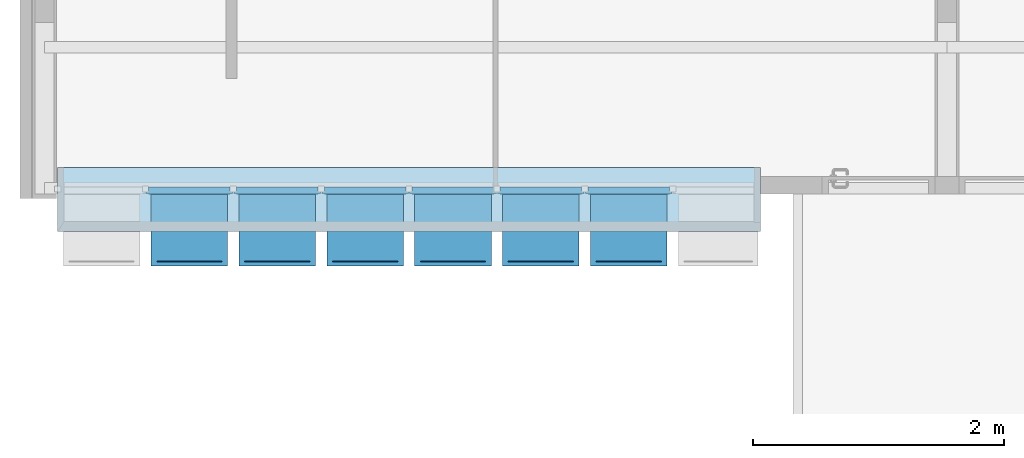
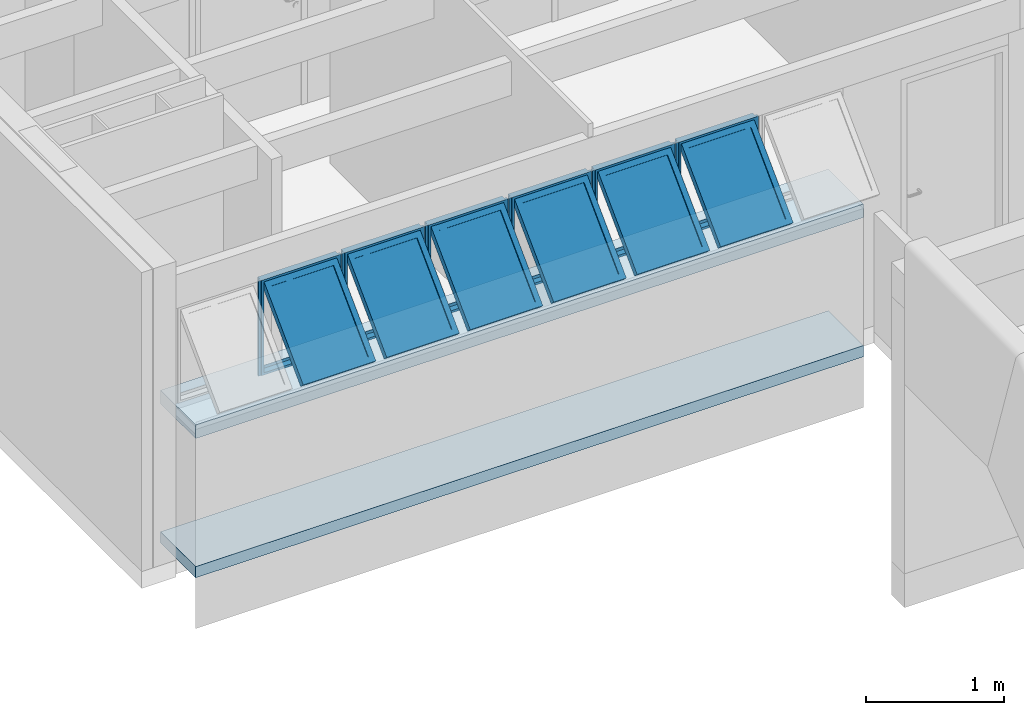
# One storey, part 11 of 40: 6 plates, 2 slabs, 1 element without a shape of its own.
"""IFC4 building model written with IfcOpenShell, lengths in millimetres."""

from ifc_helpers import new_model, entity, si_unit, converted_unit, derived_unit, direction, frame, origin_with_axes, place, context, subcontext, project, spatial, line, indexed_curve, outline, extrude, polygons, source, transform, mapped, material, layer, layer_set, layer_usage, constituent, constituent_set, type_object, element, aggregate, save


model = new_model("IFC4")

# Units and contexts
model_context = context("Model", 3, precision=0.01, world=origin_with_axes(), true_north=direction((0.0, 1.0)))
body_context = subcontext(model_context, "Body", "Model", "MODEL_VIEW")
ifc_project = project(units=[si_unit("LENGTHUNIT", "METRE", prefix="MILLI"), si_unit("AREAUNIT", "SQUARE_METRE"), si_unit("VOLUMEUNIT", "CUBIC_METRE"), converted_unit("PLANEANGLEUNIT", "DEGREE", entity("IfcPlaneAngleMeasure", 0.0174532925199), si_unit("PLANEANGLEUNIT", "RADIAN"), dimensions=[0, 0, 0, 0, 0, 0, 0]), converted_unit("TIMEUNIT", "Year", entity("IfcTimeMeasure", 31556926.0), si_unit("TIMEUNIT", "SECOND"), dimensions=[0, 0, 1, 0, 0, 0, 0]), si_unit("MASSUNIT", "GRAM", prefix="KILO"), si_unit("THERMODYNAMICTEMPERATUREUNIT", "DEGREE_CELSIUS"), si_unit("LUMINOUSINTENSITYUNIT", "LUMEN"), si_unit("ENERGYUNIT", "JOULE", prefix="MEGA"), derived_unit("THERMALCONDUCTANCEUNIT", [(si_unit("POWERUNIT", "WATT"), 1), (si_unit("LENGTHUNIT", "METRE"), -1), (si_unit("THERMODYNAMICTEMPERATUREUNIT", "KELVIN"), -1)]), derived_unit("SPECIFICHEATCAPACITYUNIT", [(si_unit("ENERGYUNIT", "JOULE"), 1), (si_unit("MASSUNIT", "GRAM", prefix="KILO"), -1), (si_unit("THERMODYNAMICTEMPERATUREUNIT", "KELVIN"), -1)]), derived_unit("MASSDENSITYUNIT", [(si_unit("MASSUNIT", "GRAM", prefix="KILO"), 1), (si_unit("VOLUMEUNIT", "CUBIC_METRE"), -1)])], contexts=[model_context])

# Site, building, storey
site_placement = place(None, origin_with_axes())
site = spatial("IfcSite", under=ifc_project, at=site_placement, Name="Local", CompositionType="ELEMENT")
building_placement = place(site_placement, origin_with_axes())
building = spatial("IfcBuilding", under=site, at=building_placement, Name="Construção", CompositionType="ELEMENT")
storey_placement = place(building_placement, origin_with_axes())
storey = spatial("IfcBuildingStorey", under=building, at=storey_placement, Name="Primeiro Pavimento", CompositionType="ELEMENT", Elevation=0.0)

# Slab
ifc_material_1 = material(Name="Concreto Armado Moldado in Loco - Estrutural")
ifc_layer_1 = layer(ifc_material_1, 120.0, ventilated="UNKNOWN", Name="Concreto Armado Moldado in Loco - Estrutural")
ifc_layer_set_1 = layer_set([ifc_layer_1], Name="Concreto Armado Moldado in Loco - Estrutural 120")
ifc_layer_usage_1 = layer_usage(ifc_layer_set_1, "AXIS3", "NEGATIVE", 120.0)
slab_type_1 = type_object("IfcSlabType", Name="Concreto Armado Moldado in Loco - Estrutural 120", PredefinedType="FLOOR")
slab_1_placement = place(storey_placement, frame((300.0, 17595.0000013, 1355.0), z_axis=(0.0, 0.0, 1.0), x_axis=(1.0, 0.0, 0.0)))
element("IfcSlab", 1, at=slab_1_placement, inside=storey, type_object=slab_type_1, material=ifc_layer_usage_1, Name="APTO3-LAJE-003", PredefinedType="FLOOR", context=body_context, shape_type="SweptSolid", body=[
    extrude(outline(indexed_curve([(0.0, 0.0), (5600.0, 0.0), (5600.0, 510.0), (0.0, 510.0)], segments=[line(1, 2, 3, 4, 1)])), frame((0.0, 0.0, -120.0), z_axis=(0.0, 0.0, 1.0), x_axis=(1.0, 0.0, 0.0)), (0.0, 0.0, 1.0), 120.0),
])

# Window, plates
window_type = type_object("IfcWindowType", Name="Tipo de Parede Cortina", PartitioningType="NOTDEFINED", PredefinedType="NOTDEFINED")
window_placement = place(storey_placement, frame((2750.0, 17910.0, 1355.00007107), z_axis=(0.0, 0.0, 1.0), x_axis=(1.0, 0.0, 0.0)))
window = element("IfcWindow", 2, at=window_placement, inside=storey, type_object=window_type, Name="APTO3-JANELA-000", PredefinedType="NOTDEFINED")
ifc_material_2 = material(Name="Alumínio")
ifc_constituent_1 = constituent(ifc_material_2, Name="Alumínio")
ifc_material_3 = material(Name="Vidro")
ifc_constituent_2 = constituent(ifc_material_3, Name="Vidro")
ifc_constituent_set_1 = constituent_set(constituents=[ifc_constituent_1, ifc_constituent_2])
plate_type = type_object("IfcPlateType", Name="Painel Principal 690 x 845 x 20", PredefinedType="CURTAIN_PANEL")
shared_shape_1 = source(origin_with_axes(), body_context, "Body", "Tessellation", [
    polygons([(25.0000036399, 0.0, -40.0), (674.999997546, 0.0, -40.0), (674.999997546, 0.0, -35.0), (25.0000036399, 0.0, -35.0), (70.0000036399, 45.0, -40.0), (629.999997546, 45.0, -40.0), (629.999997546, 45.0, -35.0), (70.0000036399, 45.0, -35.0)], [[[1, 2, 3, 4]], [[1, 5, 6, 2]], [[2, 6, 7, 3]], [[4, 3, 7, 8]], [[5, 1, 4, 8]], [[6, 5, 8, 7]]], closed=True),
    polygons([(674.999997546, 0.0, -40.0), (674.999997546, 844.999891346, -40.0), (674.999997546, 844.999891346, -35.0), (674.999997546, 0.0, -35.0), (629.999997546, 45.0, -40.0), (629.999997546, 799.999891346, -40.0), (629.999997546, 799.999891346, -35.0), (629.999997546, 45.0, -35.0)], [[[1, 2, 3, 4]], [[1, 5, 6, 2]], [[2, 6, 7, 3]], [[4, 3, 7, 8]], [[5, 1, 4, 8]], [[6, 5, 8, 7]]], closed=True),
    polygons([(25.0000036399, 844.999891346, -40.0), (70.0000036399, 799.999891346, -40.0), (70.0000036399, 799.999891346, -35.0), (25.0000036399, 844.999891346, -35.0), (674.999997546, 844.999891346, -40.0), (629.999997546, 799.999891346, -40.0), (629.999997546, 799.999891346, -35.0), (674.999997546, 844.999891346, -35.0)], [[[1, 2, 3, 4]], [[1, 5, 6, 2]], [[2, 6, 7, 3]], [[4, 3, 7, 8]], [[5, 1, 4, 8]], [[6, 5, 8, 7]]], closed=True),
    polygons([(25.0000036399, 0.0, -40.0), (70.0000036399, 45.0, -40.0), (70.0000036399, 45.0, -35.0), (25.0000036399, 0.0, -35.0), (25.0000036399, 844.999891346, -40.0), (70.0000036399, 799.999891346, -40.0), (70.0000036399, 799.999891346, -35.0), (25.0000036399, 844.999891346, -35.0)], [[[1, 2, 3, 4]], [[1, 5, 6, 2]], [[2, 6, 7, 3]], [[4, 3, 7, 8]], [[5, 1, 4, 8]], [[6, 5, 8, 7]]], closed=True),
    polygons([(25.0000036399, 0.0, -35.0), (674.999997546, 0.0, -35.0), (674.999997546, 0.0, 15.0), (25.0000036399, 0.0, 15.0), (45.0000036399, 20.0, -35.0), (654.999997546, 20.0, -35.0), (654.999997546, 20.0, 15.0), (45.0000036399, 20.0, 15.0)], [[[1, 2, 3, 4]], [[1, 5, 6, 2]], [[2, 6, 7, 3]], [[4, 3, 7, 8]], [[5, 1, 4, 8]], [[6, 5, 8, 7]]], closed=True),
    polygons([(674.999997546, 0.0, -35.0), (674.999997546, 844.999891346, -35.0), (674.999997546, 844.999891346, 15.0), (674.999997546, 0.0, 15.0), (654.999997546, 20.0, -35.0), (654.999997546, 824.999891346, -35.0), (654.999997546, 824.999891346, 15.0), (654.999997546, 20.0, 15.0)], [[[1, 2, 3, 4]], [[1, 5, 6, 2]], [[2, 6, 7, 3]], [[4, 3, 7, 8]], [[5, 1, 4, 8]], [[6, 5, 8, 7]]], closed=True),
    polygons([(25.0000036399, 844.999891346, -35.0), (45.0000036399, 824.999891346, -35.0), (45.0000036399, 824.999891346, 15.0), (25.0000036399, 844.999891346, 15.0), (674.999997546, 844.999891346, -35.0), (654.999997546, 824.999891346, -35.0), (654.999997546, 824.999891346, 15.0), (674.999997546, 844.999891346, 15.0)], [[[1, 2, 3, 4]], [[1, 5, 6, 2]], [[2, 6, 7, 3]], [[4, 3, 7, 8]], [[5, 1, 4, 8]], [[6, 5, 8, 7]]], closed=True),
    polygons([(25.0000036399, 0.0, -35.0), (45.0000036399, 20.0, -35.0), (45.0000036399, 20.0, 15.0), (25.0000036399, 0.0, 15.0), (25.0000036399, 844.999891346, -35.0), (45.0000036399, 824.999891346, -35.0), (45.0000036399, 824.999891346, 15.0), (25.0000036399, 844.999891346, 15.0)], [[[1, 2, 3, 4]], [[1, 5, 6, 2]], [[2, 6, 7, 3]], [[4, 3, 7, 8]], [[5, 1, 4, 8]], [[6, 5, 8, 7]]], closed=True),
    polygons([(694.999995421, 0.0, -10.0), (694.999995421, 844.999891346, -10.0), (694.999995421, 844.999891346, 10.0), (694.999995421, 0.0, 10.0), (674.999997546, 0.0, -10.0), (674.999997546, 844.999891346, -10.0), (674.999997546, 844.999891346, 10.0), (674.999997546, 0.0, 10.0)], [[[1, 2, 3, 4]], [[1, 5, 6, 2]], [[2, 6, 7, 3]], [[4, 3, 7, 8]], [[5, 1, 4, 8]], [[6, 5, 8, 7]]], closed=True),
    polygons([(5.00000576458, 844.999891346, -10.0), (5.00000576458, 0.0, -10.0), (5.00000576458, 0.0, 10.0), (5.00000576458, 844.999891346, 10.0), (25.0000036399, 844.999891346, -10.0), (25.0000036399, 0.0, -10.0), (25.0000036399, 0.0, 10.0), (25.0000036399, 844.999891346, 10.0)], [[[1, 2, 3, 4]], [[1, 5, 6, 2]], [[2, 6, 7, 3]], [[4, 3, 7, 8]], [[5, 1, 4, 8]], [[6, 5, 8, 7]]], closed=True),
    polygons([(90.0000036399, 252.243475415, 517.045737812), (90.0000036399, 757.824747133, 11.4644660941), (90.0000036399, 796.715620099, 50.3553390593), (90.0000036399, 291.13434838, 555.936610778), (45.0000036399, 220.423670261, 548.865542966), (45.0000036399, 789.644552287, -20.3553390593), (45.0000036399, 828.535425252, 18.5355339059), (45.0000036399, 259.314543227, 587.756415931)], [[[1, 2, 3, 4]], [[1, 5, 6, 2]], [[2, 6, 7, 3]], [[4, 3, 7, 8]], [[5, 1, 4, 8]], [[6, 5, 8, 7]]], closed=True),
    polygons([(654.999997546, 220.423670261, 548.865542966), (654.999997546, 789.644552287, -20.3553390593), (654.999997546, 828.535425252, 18.5355339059), (654.999997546, 259.314543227, 587.756415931), (609.999997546, 252.243475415, 517.045737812), (609.999997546, 757.824747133, 11.4644660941), (609.999997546, 796.715620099, 50.3553390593), (609.999997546, 291.13434838, 555.936610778)], [[[1, 2, 3, 4]], [[1, 5, 6, 2]], [[2, 6, 7, 3]], [[4, 3, 7, 8]], [[5, 1, 4, 8]], [[6, 5, 8, 7]]], closed=True),
    polygons([(654.999997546, 220.423670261, 548.865542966), (609.999997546, 252.243475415, 517.045737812), (609.999997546, 291.13434838, 555.936610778), (654.999997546, 259.314543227, 587.756415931), (45.0000036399, 220.423670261, 548.865542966), (90.0000036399, 252.243475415, 517.045737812), (90.0000036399, 291.13434838, 555.936610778), (45.0000036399, 259.314543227, 587.756415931)], [[[1, 2, 3, 4]], [[1, 5, 6, 2]], [[2, 6, 7, 3]], [[4, 3, 7, 8]], [[5, 1, 4, 8]], [[6, 5, 8, 7]]], closed=True),
    polygons([(45.0000036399, 789.644552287, -20.3553390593), (90.0000036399, 757.824747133, 11.4644660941), (90.0000036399, 796.715620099, 50.3553390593), (45.0000036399, 828.535425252, 18.5355339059), (654.999997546, 789.644552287, -20.3553390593), (609.999997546, 757.824747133, 11.4644660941), (609.999997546, 796.715620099, 50.3553390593), (654.999997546, 828.535425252, 18.5355339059)], [[[1, 2, 3, 4]], [[1, 5, 6, 2]], [[2, 6, 7, 3]], [[4, 3, 7, 8]], [[5, 1, 4, 8]], [[6, 5, 8, 7]]], closed=True),
    polygons([(90.0000036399, 272.749572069, 537.551834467), (609.999997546, 272.749572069, 537.551834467), (609.999997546, 284.063280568, 548.865542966), (90.0000036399, 284.063280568, 548.865542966), (90.0000036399, 778.330843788, 31.9705627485), (609.999997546, 778.330843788, 31.9705627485), (609.999997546, 789.644552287, 43.2842712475), (90.0000036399, 789.644552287, 43.2842712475)], [[[1, 2, 3, 4]], [[1, 5, 6, 2]], [[2, 6, 7, 3]], [[4, 3, 7, 8]], [[5, 1, 4, 8]], [[6, 5, 8, 7]]], closed=True),
])
plate_1_placement = place(window_placement, frame((0.0, 0.0, 422.499964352), z_axis=(0.0, 0.0, 1.0), x_axis=(-1.0, 0.0, 0.0)))
plate_1 = element("IfcPlate", 3, at=plate_1_placement, type_object=plate_type, material=ifc_constituent_set_1, Name="APTO3-Painel-Prin-013", PredefinedType="CURTAIN_PANEL", context=body_context, shape_type="MappedRepresentation", body=[
    mapped(shared_shape_1, transform((350.0, 0.0, -422.499964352), x_axis=(-1.0, 0.0, 0.0), y_axis=(0.0, 0.0, 1.0), z_axis=(0.0, 1.0, 0.0))),
])
ifc_constituent_3 = constituent(ifc_material_2, Name="Alumínio")
ifc_constituent_4 = constituent(ifc_material_3, Name="Vidro")
ifc_constituent_set_2 = constituent_set(constituents=[ifc_constituent_3, ifc_constituent_4])
plate_2_placement = place(window_placement, frame((2100.0, 0.0, 422.499964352), z_axis=(0.0, 0.0, 1.0), x_axis=(-1.0, 0.0, 0.0)))
plate_2 = element("IfcPlate", 4, at=plate_2_placement, type_object=plate_type, material=ifc_constituent_set_2, Name="APTO3-Painel-Prin-029", PredefinedType="CURTAIN_PANEL", context=body_context, shape_type="MappedRepresentation", body=[
    mapped(shared_shape_1, transform((350.0, 0.0, -422.499964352), x_axis=(-1.0, 0.0, 0.0), y_axis=(0.0, 0.0, 1.0), z_axis=(0.0, 1.0, 0.0))),
])
ifc_constituent_5 = constituent(ifc_material_2, Name="Alumínio")
ifc_constituent_6 = constituent(ifc_material_3, Name="Vidro")
ifc_constituent_set_3 = constituent_set(constituents=[ifc_constituent_5, ifc_constituent_6])
shared_shape_2 = source(origin_with_axes(), body_context, "Body", "Tessellation", [
    polygons([(25.0000036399, 0.0, -40.0), (674.999997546, 0.0, -40.0), (674.999997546, 0.0, -35.0), (25.0000036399, 0.0, -35.0), (70.0000036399, 45.0, -40.0), (629.999997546, 45.0, -40.0), (629.999997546, 45.0, -35.0), (70.0000036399, 45.0, -35.0)], [[[1, 2, 3, 4]], [[1, 5, 6, 2]], [[2, 6, 7, 3]], [[4, 3, 7, 8]], [[5, 1, 4, 8]], [[6, 5, 8, 7]]], closed=True),
    polygons([(674.999997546, 0.0, -40.0), (674.999997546, 844.999891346, -40.0), (674.999997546, 844.999891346, -35.0), (674.999997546, 0.0, -35.0), (629.999997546, 45.0, -40.0), (629.999997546, 799.999891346, -40.0), (629.999997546, 799.999891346, -35.0), (629.999997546, 45.0, -35.0)], [[[1, 2, 3, 4]], [[1, 5, 6, 2]], [[2, 6, 7, 3]], [[4, 3, 7, 8]], [[5, 1, 4, 8]], [[6, 5, 8, 7]]], closed=True),
    polygons([(25.0000036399, 844.999891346, -40.0), (70.0000036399, 799.999891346, -40.0), (70.0000036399, 799.999891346, -35.0), (25.0000036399, 844.999891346, -35.0), (674.999997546, 844.999891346, -40.0), (629.999997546, 799.999891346, -40.0), (629.999997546, 799.999891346, -35.0), (674.999997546, 844.999891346, -35.0)], [[[1, 2, 3, 4]], [[1, 5, 6, 2]], [[2, 6, 7, 3]], [[4, 3, 7, 8]], [[5, 1, 4, 8]], [[6, 5, 8, 7]]], closed=True),
    polygons([(25.0000036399, 0.0, -40.0), (70.0000036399, 45.0, -40.0), (70.0000036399, 45.0, -35.0), (25.0000036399, 0.0, -35.0), (25.0000036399, 844.999891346, -40.0), (70.0000036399, 799.999891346, -40.0), (70.0000036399, 799.999891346, -35.0), (25.0000036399, 844.999891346, -35.0)], [[[1, 2, 3, 4]], [[1, 5, 6, 2]], [[2, 6, 7, 3]], [[4, 3, 7, 8]], [[5, 1, 4, 8]], [[6, 5, 8, 7]]], closed=True),
    polygons([(25.0000036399, 0.0, -35.0), (674.999997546, 0.0, -35.0), (674.999997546, 0.0, 15.0), (25.0000036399, 0.0, 15.0), (45.0000036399, 20.0, -35.0), (654.999997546, 20.0, -35.0), (654.999997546, 20.0, 15.0), (45.0000036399, 20.0, 15.0)], [[[1, 2, 3, 4]], [[1, 5, 6, 2]], [[2, 6, 7, 3]], [[4, 3, 7, 8]], [[5, 1, 4, 8]], [[6, 5, 8, 7]]], closed=True),
    polygons([(674.999997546, 0.0, -35.0), (674.999997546, 844.999891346, -35.0), (674.999997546, 844.999891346, 15.0), (674.999997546, 0.0, 15.0), (654.999997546, 20.0, -35.0), (654.999997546, 824.999891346, -35.0), (654.999997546, 824.999891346, 15.0), (654.999997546, 20.0, 15.0)], [[[1, 2, 3, 4]], [[1, 5, 6, 2]], [[2, 6, 7, 3]], [[4, 3, 7, 8]], [[5, 1, 4, 8]], [[6, 5, 8, 7]]], closed=True),
    polygons([(25.0000036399, 844.999891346, -35.0), (45.0000036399, 824.999891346, -35.0), (45.0000036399, 824.999891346, 15.0), (25.0000036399, 844.999891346, 15.0), (674.999997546, 844.999891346, -35.0), (654.999997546, 824.999891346, -35.0), (654.999997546, 824.999891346, 15.0), (674.999997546, 844.999891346, 15.0)], [[[1, 2, 3, 4]], [[1, 5, 6, 2]], [[2, 6, 7, 3]], [[4, 3, 7, 8]], [[5, 1, 4, 8]], [[6, 5, 8, 7]]], closed=True),
    polygons([(25.0000036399, 0.0, -35.0), (45.0000036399, 20.0, -35.0), (45.0000036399, 20.0, 15.0), (25.0000036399, 0.0, 15.0), (25.0000036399, 844.999891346, -35.0), (45.0000036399, 824.999891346, -35.0), (45.0000036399, 824.999891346, 15.0), (25.0000036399, 844.999891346, 15.0)], [[[1, 2, 3, 4]], [[1, 5, 6, 2]], [[2, 6, 7, 3]], [[4, 3, 7, 8]], [[5, 1, 4, 8]], [[6, 5, 8, 7]]], closed=True),
    polygons([(694.999995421, 0.0, -10.0), (694.999995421, 844.999891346, -10.0), (694.999995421, 844.999891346, 10.0), (694.999995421, 0.0, 10.0), (674.999997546, 0.0, -10.0), (674.999997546, 844.999891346, -10.0), (674.999997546, 844.999891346, 10.0), (674.999997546, 0.0, 10.0)], [[[1, 2, 3, 4]], [[1, 5, 6, 2]], [[2, 6, 7, 3]], [[4, 3, 7, 8]], [[5, 1, 4, 8]], [[6, 5, 8, 7]]], closed=True),
    polygons([(5.00000576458, 844.999891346, -10.0), (5.00000576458, 0.0, -10.0), (5.00000576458, 0.0, 10.0), (5.00000576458, 844.999891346, 10.0), (25.0000036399, 844.999891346, -10.0), (25.0000036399, 0.0, -10.0), (25.0000036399, 0.0, 10.0), (25.0000036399, 844.999891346, 10.0)], [[[1, 2, 3, 4]], [[1, 5, 6, 2]], [[2, 6, 7, 3]], [[4, 3, 7, 8]], [[5, 1, 4, 8]], [[6, 5, 8, 7]]], closed=True),
    polygons([(90.0000036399, 252.243475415, 517.045737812), (90.0000036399, 757.824747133, 11.4644660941), (90.0000036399, 796.715620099, 50.3553390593), (90.0000036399, 291.13434838, 555.936610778), (45.0000036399, 220.423670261, 548.865542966), (45.0000036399, 789.644552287, -20.3553390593), (45.0000036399, 828.535425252, 18.5355339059), (45.0000036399, 259.314543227, 587.756415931)], [[[1, 2, 3, 4]], [[1, 5, 6, 2]], [[2, 6, 7, 3]], [[4, 3, 7, 8]], [[5, 1, 4, 8]], [[6, 5, 8, 7]]], closed=True),
    polygons([(654.999997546, 220.423670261, 548.865542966), (654.999997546, 789.644552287, -20.3553390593), (654.999997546, 828.535425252, 18.5355339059), (654.999997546, 259.314543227, 587.756415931), (609.999997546, 252.243475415, 517.045737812), (609.999997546, 757.824747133, 11.4644660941), (609.999997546, 796.715620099, 50.3553390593), (609.999997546, 291.13434838, 555.936610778)], [[[1, 2, 3, 4]], [[1, 5, 6, 2]], [[2, 6, 7, 3]], [[4, 3, 7, 8]], [[5, 1, 4, 8]], [[6, 5, 8, 7]]], closed=True),
    polygons([(654.999997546, 220.423670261, 548.865542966), (609.999997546, 252.243475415, 517.045737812), (609.999997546, 291.13434838, 555.936610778), (654.999997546, 259.314543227, 587.756415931), (45.0000036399, 220.423670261, 548.865542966), (90.0000036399, 252.243475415, 517.045737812), (90.0000036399, 291.13434838, 555.936610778), (45.0000036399, 259.314543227, 587.756415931)], [[[1, 2, 3, 4]], [[1, 5, 6, 2]], [[2, 6, 7, 3]], [[4, 3, 7, 8]], [[5, 1, 4, 8]], [[6, 5, 8, 7]]], closed=True),
    polygons([(45.0000036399, 789.644552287, -20.3553390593), (90.0000036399, 757.824747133, 11.4644660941), (90.0000036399, 796.715620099, 50.3553390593), (45.0000036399, 828.535425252, 18.5355339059), (654.999997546, 789.644552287, -20.3553390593), (609.999997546, 757.824747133, 11.4644660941), (609.999997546, 796.715620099, 50.3553390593), (654.999997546, 828.535425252, 18.5355339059)], [[[1, 2, 3, 4]], [[1, 5, 6, 2]], [[2, 6, 7, 3]], [[4, 3, 7, 8]], [[5, 1, 4, 8]], [[6, 5, 8, 7]]], closed=True),
    polygons([(90.0000036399, 272.749572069, 537.551834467), (609.999997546, 272.749572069, 537.551834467), (609.999997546, 284.063280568, 548.865542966), (90.0000036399, 284.063280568, 548.865542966), (90.0000036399, 778.330843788, 31.9705627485), (609.999997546, 778.330843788, 31.9705627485), (609.999997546, 789.644552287, 43.2842712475), (90.0000036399, 789.644552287, 43.2842712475)], [[[1, 2, 3, 4]], [[1, 5, 6, 2]], [[2, 6, 7, 3]], [[4, 3, 7, 8]], [[5, 1, 4, 8]], [[6, 5, 8, 7]]], closed=True),
])
plate_3_placement = place(window_placement, frame((-1400.0, 0.0, 422.499964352), z_axis=(0.0, 0.0, 1.0), x_axis=(-1.0, 0.0, 0.0)))
plate_3 = element("IfcPlate", 5, at=plate_3_placement, type_object=plate_type, material=ifc_constituent_set_3, Name="APTO3-Painel-Prin-013", PredefinedType="CURTAIN_PANEL", context=body_context, shape_type="MappedRepresentation", body=[
    mapped(shared_shape_2, transform((350.0, 0.0, -422.499964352), x_axis=(-1.0, 0.0, 0.0), y_axis=(0.0, 0.0, 1.0), z_axis=(0.0, 1.0, 0.0))),
])
ifc_constituent_7 = constituent(ifc_material_2, Name="Alumínio")
ifc_constituent_8 = constituent(ifc_material_3, Name="Vidro")
ifc_constituent_set_4 = constituent_set(constituents=[ifc_constituent_7, ifc_constituent_8])
plate_4_placement = place(window_placement, frame((1400.0, 0.0, 422.499964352), z_axis=(0.0, 0.0, 1.0), x_axis=(-1.0, 0.0, 0.0)))
plate_4 = element("IfcPlate", 6, at=plate_4_placement, type_object=plate_type, material=ifc_constituent_set_4, Name="APTO3-Painel-Prin-025", PredefinedType="CURTAIN_PANEL", context=body_context, shape_type="MappedRepresentation", body=[
    mapped(shared_shape_2, transform((350.0, 0.0, -422.499964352), x_axis=(-1.0, 0.0, 0.0), y_axis=(0.0, 0.0, 1.0), z_axis=(0.0, 1.0, 0.0))),
])
ifc_constituent_9 = constituent(ifc_material_2, Name="Alumínio")
ifc_constituent_10 = constituent(ifc_material_3, Name="Vidro")
ifc_constituent_set_5 = constituent_set(constituents=[ifc_constituent_9, ifc_constituent_10])
shared_shape_3 = source(origin_with_axes(), body_context, "Body", "Tessellation", [
    polygons([(25.0000036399, 0.0, -40.0), (674.999997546, 0.0, -40.0), (674.999997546, 0.0, -35.0), (25.0000036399, 0.0, -35.0), (70.0000036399, 45.0, -40.0), (629.999997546, 45.0, -40.0), (629.999997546, 45.0, -35.0), (70.0000036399, 45.0, -35.0)], [[[1, 2, 3, 4]], [[1, 5, 6, 2]], [[2, 6, 7, 3]], [[4, 3, 7, 8]], [[5, 1, 4, 8]], [[6, 5, 8, 7]]], closed=True),
    polygons([(674.999997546, 0.0, -40.0), (674.999997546, 844.999891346, -40.0), (674.999997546, 844.999891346, -35.0), (674.999997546, 0.0, -35.0), (629.999997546, 45.0, -40.0), (629.999997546, 799.999891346, -40.0), (629.999997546, 799.999891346, -35.0), (629.999997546, 45.0, -35.0)], [[[1, 2, 3, 4]], [[1, 5, 6, 2]], [[2, 6, 7, 3]], [[4, 3, 7, 8]], [[5, 1, 4, 8]], [[6, 5, 8, 7]]], closed=True),
    polygons([(25.0000036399, 844.999891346, -40.0), (70.0000036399, 799.999891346, -40.0), (70.0000036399, 799.999891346, -35.0), (25.0000036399, 844.999891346, -35.0), (674.999997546, 844.999891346, -40.0), (629.999997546, 799.999891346, -40.0), (629.999997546, 799.999891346, -35.0), (674.999997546, 844.999891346, -35.0)], [[[1, 2, 3, 4]], [[1, 5, 6, 2]], [[2, 6, 7, 3]], [[4, 3, 7, 8]], [[5, 1, 4, 8]], [[6, 5, 8, 7]]], closed=True),
    polygons([(25.0000036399, 0.0, -40.0), (70.0000036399, 45.0, -40.0), (70.0000036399, 45.0, -35.0), (25.0000036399, 0.0, -35.0), (25.0000036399, 844.999891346, -40.0), (70.0000036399, 799.999891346, -40.0), (70.0000036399, 799.999891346, -35.0), (25.0000036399, 844.999891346, -35.0)], [[[1, 2, 3, 4]], [[1, 5, 6, 2]], [[2, 6, 7, 3]], [[4, 3, 7, 8]], [[5, 1, 4, 8]], [[6, 5, 8, 7]]], closed=True),
    polygons([(25.0000036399, 0.0, -35.0), (674.999997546, 0.0, -35.0), (674.999997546, 0.0, 15.0), (25.0000036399, 0.0, 15.0), (45.0000036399, 20.0, -35.0), (654.999997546, 20.0, -35.0), (654.999997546, 20.0, 15.0), (45.0000036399, 20.0, 15.0)], [[[1, 2, 3, 4]], [[1, 5, 6, 2]], [[2, 6, 7, 3]], [[4, 3, 7, 8]], [[5, 1, 4, 8]], [[6, 5, 8, 7]]], closed=True),
    polygons([(674.999997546, 0.0, -35.0), (674.999997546, 844.999891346, -35.0), (674.999997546, 844.999891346, 15.0), (674.999997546, 0.0, 15.0), (654.999997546, 20.0, -35.0), (654.999997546, 824.999891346, -35.0), (654.999997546, 824.999891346, 15.0), (654.999997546, 20.0, 15.0)], [[[1, 2, 3, 4]], [[1, 5, 6, 2]], [[2, 6, 7, 3]], [[4, 3, 7, 8]], [[5, 1, 4, 8]], [[6, 5, 8, 7]]], closed=True),
    polygons([(25.0000036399, 844.999891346, -35.0), (45.0000036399, 824.999891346, -35.0), (45.0000036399, 824.999891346, 15.0), (25.0000036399, 844.999891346, 15.0), (674.999997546, 844.999891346, -35.0), (654.999997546, 824.999891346, -35.0), (654.999997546, 824.999891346, 15.0), (674.999997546, 844.999891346, 15.0)], [[[1, 2, 3, 4]], [[1, 5, 6, 2]], [[2, 6, 7, 3]], [[4, 3, 7, 8]], [[5, 1, 4, 8]], [[6, 5, 8, 7]]], closed=True),
    polygons([(25.0000036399, 0.0, -35.0), (45.0000036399, 20.0, -35.0), (45.0000036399, 20.0, 15.0), (25.0000036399, 0.0, 15.0), (25.0000036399, 844.999891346, -35.0), (45.0000036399, 824.999891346, -35.0), (45.0000036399, 824.999891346, 15.0), (25.0000036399, 844.999891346, 15.0)], [[[1, 2, 3, 4]], [[1, 5, 6, 2]], [[2, 6, 7, 3]], [[4, 3, 7, 8]], [[5, 1, 4, 8]], [[6, 5, 8, 7]]], closed=True),
    polygons([(694.999995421, 0.0, -10.0), (694.999995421, 844.999891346, -10.0), (694.999995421, 844.999891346, 10.0), (694.999995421, 0.0, 10.0), (674.999997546, 0.0, -10.0), (674.999997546, 844.999891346, -10.0), (674.999997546, 844.999891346, 10.0), (674.999997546, 0.0, 10.0)], [[[1, 2, 3, 4]], [[1, 5, 6, 2]], [[2, 6, 7, 3]], [[4, 3, 7, 8]], [[5, 1, 4, 8]], [[6, 5, 8, 7]]], closed=True),
    polygons([(5.00000576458, 844.999891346, -10.0), (5.00000576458, 0.0, -10.0), (5.00000576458, 0.0, 10.0), (5.00000576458, 844.999891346, 10.0), (25.0000036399, 844.999891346, -10.0), (25.0000036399, 0.0, -10.0), (25.0000036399, 0.0, 10.0), (25.0000036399, 844.999891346, 10.0)], [[[1, 2, 3, 4]], [[1, 5, 6, 2]], [[2, 6, 7, 3]], [[4, 3, 7, 8]], [[5, 1, 4, 8]], [[6, 5, 8, 7]]], closed=True),
    polygons([(90.0000036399, 252.243475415, 517.045737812), (90.0000036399, 757.824747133, 11.4644660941), (90.0000036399, 796.715620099, 50.3553390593), (90.0000036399, 291.13434838, 555.936610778), (45.0000036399, 220.423670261, 548.865542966), (45.0000036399, 789.644552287, -20.3553390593), (45.0000036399, 828.535425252, 18.5355339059), (45.0000036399, 259.314543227, 587.756415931)], [[[1, 2, 3, 4]], [[1, 5, 6, 2]], [[2, 6, 7, 3]], [[4, 3, 7, 8]], [[5, 1, 4, 8]], [[6, 5, 8, 7]]], closed=True),
    polygons([(654.999997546, 220.423670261, 548.865542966), (654.999997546, 789.644552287, -20.3553390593), (654.999997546, 828.535425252, 18.5355339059), (654.999997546, 259.314543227, 587.756415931), (609.999997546, 252.243475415, 517.045737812), (609.999997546, 757.824747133, 11.4644660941), (609.999997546, 796.715620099, 50.3553390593), (609.999997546, 291.13434838, 555.936610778)], [[[1, 2, 3, 4]], [[1, 5, 6, 2]], [[2, 6, 7, 3]], [[4, 3, 7, 8]], [[5, 1, 4, 8]], [[6, 5, 8, 7]]], closed=True),
    polygons([(654.999997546, 220.423670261, 548.865542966), (609.999997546, 252.243475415, 517.045737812), (609.999997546, 291.13434838, 555.936610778), (654.999997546, 259.314543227, 587.756415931), (45.0000036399, 220.423670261, 548.865542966), (90.0000036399, 252.243475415, 517.045737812), (90.0000036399, 291.13434838, 555.936610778), (45.0000036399, 259.314543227, 587.756415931)], [[[1, 2, 3, 4]], [[1, 5, 6, 2]], [[2, 6, 7, 3]], [[4, 3, 7, 8]], [[5, 1, 4, 8]], [[6, 5, 8, 7]]], closed=True),
    polygons([(45.0000036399, 789.644552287, -20.3553390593), (90.0000036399, 757.824747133, 11.4644660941), (90.0000036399, 796.715620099, 50.3553390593), (45.0000036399, 828.535425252, 18.5355339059), (654.999997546, 789.644552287, -20.3553390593), (609.999997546, 757.824747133, 11.4644660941), (609.999997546, 796.715620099, 50.3553390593), (654.999997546, 828.535425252, 18.5355339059)], [[[1, 2, 3, 4]], [[1, 5, 6, 2]], [[2, 6, 7, 3]], [[4, 3, 7, 8]], [[5, 1, 4, 8]], [[6, 5, 8, 7]]], closed=True),
    polygons([(90.0000036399, 272.749572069, 537.551834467), (609.999997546, 272.749572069, 537.551834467), (609.999997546, 284.063280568, 548.865542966), (90.0000036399, 284.063280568, 548.865542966), (90.0000036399, 778.330843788, 31.9705627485), (609.999997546, 778.330843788, 31.9705627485), (609.999997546, 789.644552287, 43.2842712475), (90.0000036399, 789.644552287, 43.2842712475)], [[[1, 2, 3, 4]], [[1, 5, 6, 2]], [[2, 6, 7, 3]], [[4, 3, 7, 8]], [[5, 1, 4, 8]], [[6, 5, 8, 7]]], closed=True),
])
plate_5_placement = place(window_placement, frame((700.0, 0.0, 422.499964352), z_axis=(0.0, 0.0, 1.0), x_axis=(-1.0, 0.0, 0.0)))
plate_5 = element("IfcPlate", 7, at=plate_5_placement, type_object=plate_type, material=ifc_constituent_set_5, Name="APTO3-Painel-Prin-013", PredefinedType="CURTAIN_PANEL", context=body_context, shape_type="MappedRepresentation", body=[
    mapped(shared_shape_3, transform((350.0, 0.0, -422.499964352), x_axis=(-1.0, 0.0, 0.0), y_axis=(0.0, 0.0, 1.0), z_axis=(0.0, 1.0, 0.0))),
])
ifc_constituent_11 = constituent(ifc_material_2, Name="Alumínio")
ifc_constituent_12 = constituent(ifc_material_3, Name="Vidro")
ifc_constituent_set_6 = constituent_set(constituents=[ifc_constituent_11, ifc_constituent_12])
plate_6_placement = place(window_placement, frame((-700.0, 0.0, 422.499964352), z_axis=(0.0, 0.0, 1.0), x_axis=(-1.0, 0.0, 0.0)))
plate_6 = element("IfcPlate", 8, at=plate_6_placement, type_object=plate_type, material=ifc_constituent_set_6, Name="APTO3-Painel-Prin-013", PredefinedType="CURTAIN_PANEL", context=body_context, shape_type="MappedRepresentation", body=[
    mapped(shared_shape_3, transform((350.0, 0.0, -422.499964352), x_axis=(-1.0, 0.0, 0.0), y_axis=(0.0, 0.0, 1.0), z_axis=(0.0, 1.0, 0.0))),
])
aggregate(window, [plate_1, plate_2, plate_3, plate_5, plate_4, plate_6])

# Slab
ifc_layer_2 = layer(ifc_material_1, 100.0, ventilated="UNKNOWN", Name="Concreto Armado Moldado in Loco - Estrutural")
ifc_layer_set_2 = layer_set([ifc_layer_2], Name="Concreto Armado Moldado in Loco - Estrutural 100")
ifc_layer_usage_2 = layer_usage(ifc_layer_set_2, "AXIS3", "NEGATIVE", 100.0)
slab_type_2 = type_object("IfcSlabType", Name="Concreto Armado Moldado in Loco - Estrutural 100", PredefinedType="FLOOR")
slab_2_placement = place(storey_placement, frame((300.0, 17595.0000013, 100.0), z_axis=(0.0, 0.0, 1.0), x_axis=(1.0, 0.0, 0.0)))
element("IfcSlab", 9, at=slab_2_placement, inside=storey, type_object=slab_type_2, material=ifc_layer_usage_2, Name="APTO3-LAJE-004", PredefinedType="FLOOR", context=body_context, shape_type="SweptSolid", body=[
    extrude(outline(indexed_curve([(0.0, 0.0), (5600.0, 0.0), (5600.0, 510.0), (0.0, 510.0)], segments=[line(1, 2, 3, 4, 1)])), frame((0.0, 0.0, -100.0), z_axis=(0.0, 0.0, 1.0), x_axis=(1.0, 0.0, 0.0)), (0.0, 0.0, 1.0), 100.0),
])

save(model, "model.ifc")
